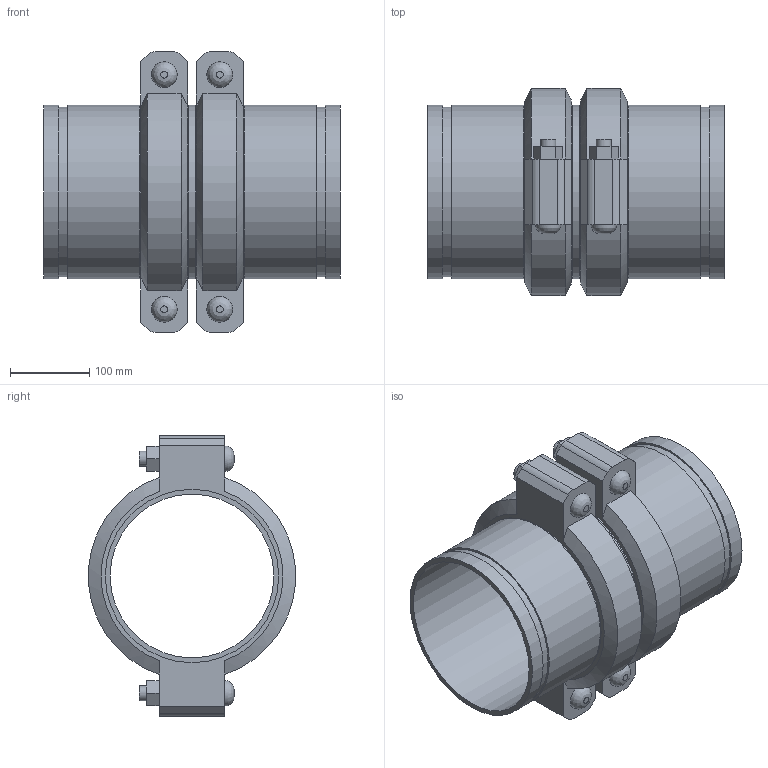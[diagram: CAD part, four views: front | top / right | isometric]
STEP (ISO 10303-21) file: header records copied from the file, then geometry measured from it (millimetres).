
FILE_DESCRIPTION(/* description */ ('VIC EXPANSION JOINT 2 COUPLINGS COMPRESSED STYLE 155 (OGS)','CAx-IF Rec.Pracs.---Representation and Presentation of Product Manufacturing Information (PMI)---4.0---2014-10-13'),/* implementation_level */ '2;1');
FILE_NAME(/* name */ 'C:\Users\kkamble\AppData\Roaming\Autodesk\ApplicationPlugins\Victaulic.Temp\A11\Victaulic_IPS_Expansion Joint_Compressed_2 Couplings_Style 155 (OGS)_8 (200).stp',/* time_stamp */ '2021-06-27T00:23:55+02:00',/* author */ ('kkamble'),/* organization */ ('Victaulic'),/* preprocessor_version */ 'ST-DEVELOPER v17.2',/* originating_system */ 'Autodesk Inventor 2019',/* authorisation */ '');
FILE_SCHEMA (('AP242_MANAGED_MODEL_BASED_3D_ENGINEERING_MIM_LF { 1 0 10303 442 1 1 4 }'));
Length unit declared in the file: inch
Products named in the file (4): 155-08.0; Nipple-08.0; Nipple-08.0_1; 075_2_Coup-08.0
Assembly tree (5 placements, depth 2):
  155-08.0
    Nipple-08.0  x2
    Nipple-08.0_1
    075_2_Coup-08.0  x2
Bounding box: 374.65 x 261.72 x 354.84 mm (x, y, z)
Volume: 4143715.3 mm3; surface area: 882186.8 mm2
Topology: 5 solids, 9 shells, 150 faces, 356 edges, 252 vertices
Faces by surface type: plane 90, cylinder 48, cone 8, bspline 4
Full cylindrical faces by diameter (mm): 19.05 x8, 21.209 x4, 206.985 x3, 212.725 x2, 214.401 x6, 219.075 x13
Entity records: 2762 total; most frequent: CARTESIAN_POINT 489, DIRECTION 453, ORIENTED_EDGE 386, EDGE_CURVE 193, AXIS2_PLACEMENT_3D 180, VERTEX_POINT 138, EDGE_LOOP 107, LINE 93
